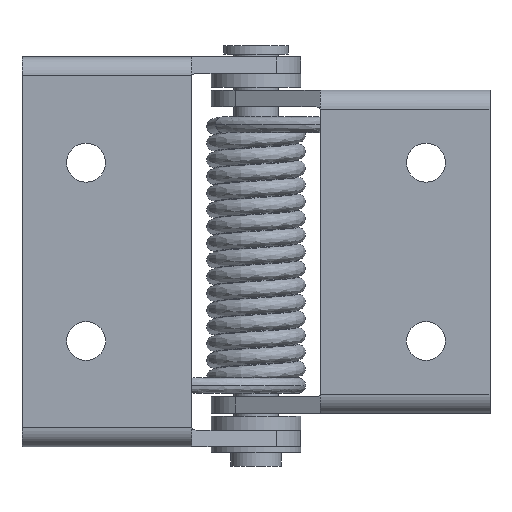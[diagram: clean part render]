
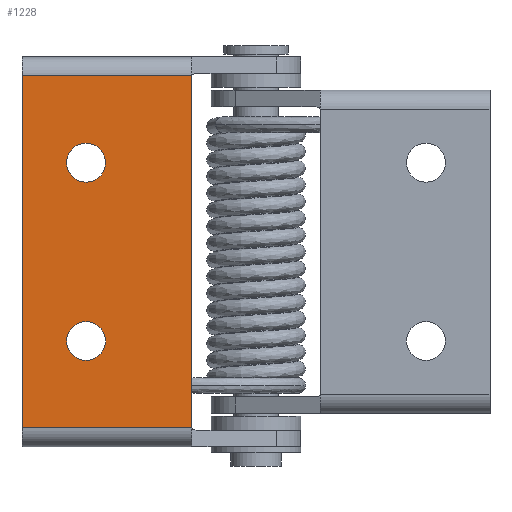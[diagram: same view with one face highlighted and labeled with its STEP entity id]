
A CAD part, front view. The second image highlights one B-rep face of the part: STEP entity #1228.
In plain terms, the highlighted planar face has unit normal (0, -1, 0).
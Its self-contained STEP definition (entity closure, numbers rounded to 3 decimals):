
#77 = AXIS2_PLACEMENT_3D ( 'NONE', #8088, #2233, #1589 ) ;
#300 = VERTEX_POINT ( 'NONE', #2356 ) ;
#468 = EDGE_LOOP ( 'NONE', ( #8204, #6368, #1541, #4576 ) ) ;
#535 = EDGE_CURVE ( 'NONE', #2684, #5276, #5188, .T. ) ;
#568 = DIRECTION ( 'NONE',  ( -1., 0., 0. ) ) ;
#578 = CARTESIAN_POINT ( 'NONE',  ( -11.568, -18., 31.6 ) ) ;
#583 = EDGE_CURVE ( 'NONE', #3066, #4804, #7347, .T. ) ;
#839 = CARTESIAN_POINT ( 'NONE',  ( -42., -18., 31.6 ) ) ;
#851 = ORIENTED_EDGE ( 'NONE', *, *, #7478, .T. ) ;
#855 = DIRECTION ( 'NONE',  ( -1., 0., 0. ) ) ;
#1228 = ADVANCED_FACE ( 'NONE', ( #4464, #3926, #7765 ), #2632, .F. ) ;
#1541 = ORIENTED_EDGE ( 'NONE', *, *, #3316, .T. ) ;
#1554 = ORIENTED_EDGE ( 'NONE', *, *, #2743, .T. ) ;
#1589 = DIRECTION ( 'NONE',  ( -1., 0., 0. ) ) ;
#1767 = ORIENTED_EDGE ( 'NONE', *, *, #7372, .T. ) ;
#1778 = DIRECTION ( 'NONE',  ( 1., 0., 0. ) ) ;
#2174 = DIRECTION ( 'NONE',  ( 0., 0., -1. ) ) ;
#2212 = DIRECTION ( 'NONE',  ( 0., 1., 0. ) ) ;
#2233 = DIRECTION ( 'NONE',  ( 0., 1., 0. ) ) ;
#2356 = CARTESIAN_POINT ( 'NONE',  ( -11.568, -18., -31.6 ) ) ;
#2583 = DIRECTION ( 'NONE',  ( 0., 0., -1. ) ) ;
#2632 = PLANE ( 'NONE',  #3805 ) ;
#2684 = VERTEX_POINT ( 'NONE', #4728 ) ;
#2743 = EDGE_CURVE ( 'NONE', #4011, #6354, #7324, .T. ) ;
#2767 = CARTESIAN_POINT ( 'NONE',  ( -42., -18., -31.6 ) ) ;
#2965 = AXIS2_PLACEMENT_3D ( 'NONE', #4137, #6801, #855 ) ;
#3066 = VERTEX_POINT ( 'NONE', #578 ) ;
#3141 = CARTESIAN_POINT ( 'NONE',  ( -42., -18., 31.6 ) ) ;
#3285 = AXIS2_PLACEMENT_3D ( 'NONE', #8404, #4289, #6459 ) ;
#3316 = EDGE_CURVE ( 'NONE', #4804, #4189, #4068, .T. ) ;
#3378 = DIRECTION ( 'NONE',  ( -1., 0., 0. ) ) ;
#3547 = CARTESIAN_POINT ( 'NONE',  ( -30.5, -18., -16. ) ) ;
#3586 = CARTESIAN_POINT ( 'NONE',  ( -42., -18., -31.6 ) ) ;
#3644 = CIRCLE ( 'NONE', #77, 3.5 ) ;
#3805 = AXIS2_PLACEMENT_3D ( 'NONE', #5905, #6467, #568 ) ;
#3923 = CIRCLE ( 'NONE', #2965, 3.5 ) ;
#3926 = FACE_BOUND ( 'NONE', #4146, .T. ) ;
#3989 = VECTOR ( 'NONE', #1778, 1000. ) ;
#4011 = VERTEX_POINT ( 'NONE', #5425 ) ;
#4025 = DIRECTION ( 'NONE',  ( -1., 0., 0. ) ) ;
#4049 = LINE ( 'NONE', #8528, #8106 ) ;
#4068 = LINE ( 'NONE', #8074, #6758 ) ;
#4137 = CARTESIAN_POINT ( 'NONE',  ( -30.5, -18., 16. ) ) ;
#4146 = EDGE_LOOP ( 'NONE', ( #851, #1554 ) ) ;
#4189 = VERTEX_POINT ( 'NONE', #2767 ) ;
#4254 = LINE ( 'NONE', #3586, #3989 ) ;
#4289 = DIRECTION ( 'NONE',  ( 0., 1., 0. ) ) ;
#4464 = FACE_BOUND ( 'NONE', #5500, .T. ) ;
#4576 = ORIENTED_EDGE ( 'NONE', *, *, #8472, .T. ) ;
#4728 = CARTESIAN_POINT ( 'NONE',  ( -30.5, -18., -12.5 ) ) ;
#4777 = VECTOR ( 'NONE', #4025, 1000. ) ;
#4804 = VERTEX_POINT ( 'NONE', #3141 ) ;
#5068 = ORIENTED_EDGE ( 'NONE', *, *, #535, .T. ) ;
#5188 = CIRCLE ( 'NONE', #8509, 3.5 ) ;
#5276 = VERTEX_POINT ( 'NONE', #5305 ) ;
#5305 = CARTESIAN_POINT ( 'NONE',  ( -30.5, -18., -19.5 ) ) ;
#5425 = CARTESIAN_POINT ( 'NONE',  ( -30.5, -18., 12.5 ) ) ;
#5500 = EDGE_LOOP ( 'NONE', ( #5068, #1767 ) ) ;
#5905 = CARTESIAN_POINT ( 'NONE',  ( -42., -18., 35. ) ) ;
#5988 = EDGE_CURVE ( 'NONE', #3066, #300, #4049, .T. ) ;
#6354 = VERTEX_POINT ( 'NONE', #6890 ) ;
#6368 = ORIENTED_EDGE ( 'NONE', *, *, #583, .T. ) ;
#6459 = DIRECTION ( 'NONE',  ( -1., 0., 0. ) ) ;
#6467 = DIRECTION ( 'NONE',  ( 0., 1., 0. ) ) ;
#6758 = VECTOR ( 'NONE', #2174, 1000. ) ;
#6801 = DIRECTION ( 'NONE',  ( 0., 1., 0. ) ) ;
#6890 = CARTESIAN_POINT ( 'NONE',  ( -30.5, -18., 19.5 ) ) ;
#7324 = CIRCLE ( 'NONE', #3285, 3.5 ) ;
#7347 = LINE ( 'NONE', #839, #4777 ) ;
#7372 = EDGE_CURVE ( 'NONE', #5276, #2684, #3644, .T. ) ;
#7478 = EDGE_CURVE ( 'NONE', #6354, #4011, #3923, .T. ) ;
#7765 = FACE_OUTER_BOUND ( 'NONE', #468, .T. ) ;
#8074 = CARTESIAN_POINT ( 'NONE',  ( -42., -18., 35. ) ) ;
#8088 = CARTESIAN_POINT ( 'NONE',  ( -30.5, -18., -16. ) ) ;
#8106 = VECTOR ( 'NONE', #2583, 1000. ) ;
#8204 = ORIENTED_EDGE ( 'NONE', *, *, #5988, .F. ) ;
#8404 = CARTESIAN_POINT ( 'NONE',  ( -30.5, -18., 16. ) ) ;
#8472 = EDGE_CURVE ( 'NONE', #4189, #300, #4254, .T. ) ;
#8509 = AXIS2_PLACEMENT_3D ( 'NONE', #3547, #2212, #3378 ) ;
#8528 = CARTESIAN_POINT ( 'NONE',  ( -11.568, -18., 35. ) ) ;
